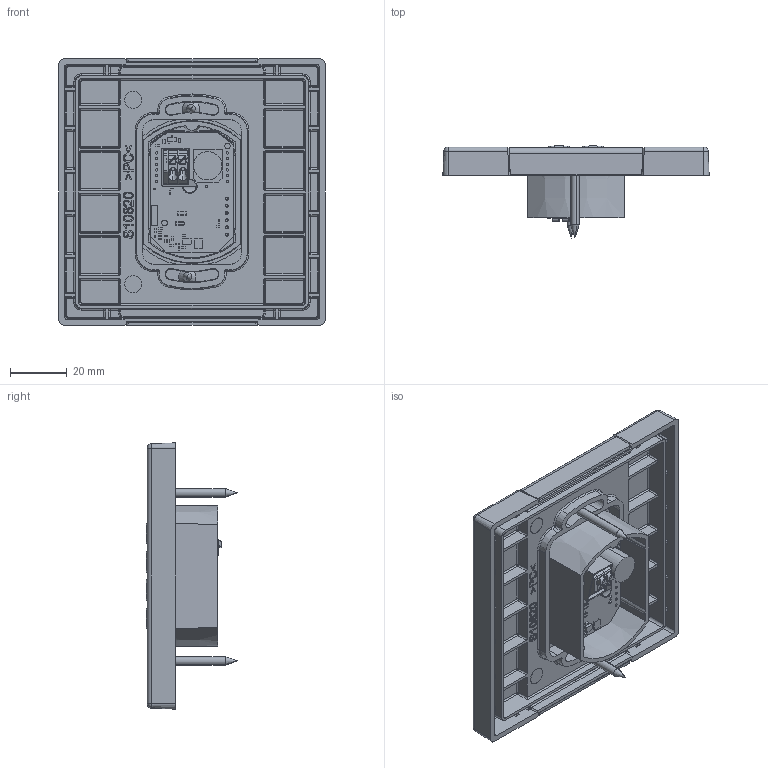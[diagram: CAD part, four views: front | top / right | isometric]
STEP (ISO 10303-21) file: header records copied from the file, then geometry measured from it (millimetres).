
FILE_DESCRIPTION (( 'STEP AP214' ), '1' );
FILE_NAME ('S11187-00001_ENTRAcode+_UP.STEP', '2019-04-29T07:18:53', ( '' ), ( '' ), 'SwSTEP 2.0', 'SolidWorks 2017', '' );
FILE_SCHEMA (( 'AUTOMOTIVE_DESIGN' ));
Length unit declared in the file: millimetre
Products named in the file (37): 1X06_RM207_1X06_RM20_S_X_Stiftleiste7; 90691; 1X06_RM2013_1X06_RM20_S_X_Stiftleiste13; 1X06_RM2012_1X06_RM20_S_X_Stiftleiste12; 1X06_RM201_1X06_RM20_S_X_Stiftleiste1; 1X06_RM205_1X06_RM20_S_X_Stiftleiste5; 1X06_RM208_1X06_RM20_S_X_Stiftleiste8; R04020_R0402_S_RCL0; ENTRAsys SOMloq2 Main Board Rev5EW1; 90688; 90859; 90398_Kernmodul; 1X06_RM2011_1X06_RM20_S_X_Stiftleiste11; 90397; PCB_5X5_V011_PCB_5X5_V01_S_Taster1; 90694; pcbs10479_tfb_reva; PCB_5X5_V012_PCB_5X5_V01_S_Taster2; 91274; 1X06_RM203_1X06_RM20_S_X_Stiftleiste3; Stecker_Wanne; 06030_0603_S_LED0; 90712; CN1JX40_CN1JX4_S_R_Netzwerk0; ENTRA_Klebestreifen_3M93017LE; S11187-00001_ENTRAcode+_UP; 90685; 1X06_RM202_1X06_RM20_S_X_Stiftleiste2; ENTRAcode_Platine_komplett_2017_06; 1X06_RM204_1X06_RM20_S_X_Stiftleiste4; 1X06_RM209_1X06_RM20_S_X_Stiftleiste9; 1X3_RM127_SMD0_1X3_RM127_SMD_S_X_Buchsenleiste0; 412_B_691412120002B; 1X06_RM206_1X06_RM20_S_X_Stiftleiste6; 90684; 1X06_RM2010_1X06_RM20_S_X_Stiftleiste10
Assembly tree (76 placements, depth 5):
  S11187-00001_ENTRAcode+_UP
    90694
      90398_Kernmodul
      90397
      90688  x4
      ENTRAcode_Platine_komplett_2017_06
        ENTRAsys SOMloq2 Main Board Rev5EW1
        Stecker_Wanne
          412_B_691412120002B
          90859
        pcbs10479_tfb_reva
          pcbs10479_tfb_reva
          06030_0603_S_LED0  x5
          CN1JX40_CN1JX4_S_R_Netzwerk0  x2
          R04020_R0402_S_RCL0  x3
          PCB_5X5_V011_PCB_5X5_V01_S_Taster1  x8
          PCB_5X5_V012_PCB_5X5_V01_S_Taster2  x8
          1X06_RM201_1X06_RM20_S_X_Stiftleiste1  x2
          1X06_RM202_1X06_RM20_S_X_Stiftleiste2  x2
          1X06_RM203_1X06_RM20_S_X_Stiftleiste3  x2
          1X06_RM204_1X06_RM20_S_X_Stiftleiste4  x2
          1X06_RM205_1X06_RM20_S_X_Stiftleiste5  x2
          1X06_RM206_1X06_RM20_S_X_Stiftleiste6  x2
          1X06_RM207_1X06_RM20_S_X_Stiftleiste7  x2
          1X06_RM208_1X06_RM20_S_X_Stiftleiste8  x2
          1X06_RM209_1X06_RM20_S_X_Stiftleiste9  x2
          1X06_RM2010_1X06_RM20_S_X_Stiftleiste10  x2
          1X06_RM2011_1X06_RM20_S_X_Stiftleiste11  x2
          1X06_RM2012_1X06_RM20_S_X_Stiftleiste12  x2
          1X06_RM2013_1X06_RM20_S_X_Stiftleiste13  x2
          1X3_RM127_SMD0_1X3_RM127_SMD_S_X_Buchsenleiste0
    90684
    90712
      90685
      90691  x2
      ENTRA_Klebestreifen_3M93017LE  x2
    91274  x2
Bounding box: 94 x 32.41 x 94 mm (x, y, z)
Volume: 47348.9 mm3; surface area: 71659.9 mm2
Topology: 69 solids, 195 shells, 3983 faces, 10101 edges, 6392 vertices
Faces by surface type: plane 2141, cylinder 838, bspline 429, cone 294, torus 150, sphere 131
Entity records: 146215 total; most frequent: CARTESIAN_POINT 43326, ORIENTED_EDGE 17035, DIRECTION 16208, EDGE_CURVE 8921, VECTOR 5790, LINE 5790, VERTEX_POINT 5701, AXIS2_PLACEMENT_3D 5209
